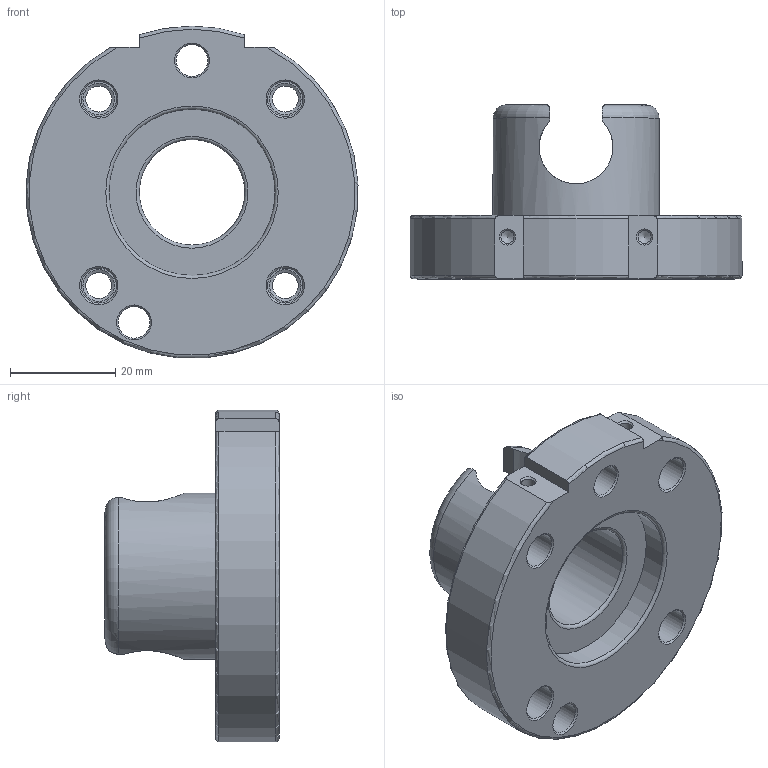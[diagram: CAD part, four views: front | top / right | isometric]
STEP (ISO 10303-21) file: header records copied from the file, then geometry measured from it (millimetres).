
FILE_DESCRIPTION(/* description */ (''),/* implementation_level */ '2;1');
FILE_NAME(/* name */ 'T:\Engineering\Homepage\Homepage 2020\4 3D Step-Daten - Homepage\4 SHW\G-SHW063-2UE-30MK1_.stp',/* time_stamp */ '2022-11-21T13:48:14+01:00',/* author */ ('ysplieth'),/* organization */ (''),/* preprocessor_version */ 'ST-DEVELOPER v17',/* originating_system */ 'Autodesk Inventor 2018',/* authorisation */ '');
FILE_SCHEMA (('AUTOMOTIVE_DESIGN { 1 0 10303 214 3 1 1 }'));
Length unit declared in the file: millimetre
Products named in the file (3): Baugruppe2; G-SHW063-2UE; DIN 934 - M6
Assembly tree (5 placements, depth 2):
  Baugruppe2
    G-SHW063-2UE
    DIN 934 - M6  x4
Bounding box: 62.94 x 33 x 62.89 mm (x, y, z)
Volume: 35935.2 mm3; surface area: 14605.4 mm2
Topology: 5 solids, 5 shells, 118 faces, 309 edges, 206 vertices
Faces by surface type: plane 53, cone 32, cylinder 23, torus 10
Full cylindrical faces by diameter (mm): 2.459 x2, 4.917 x4, 6 x2, 6.647 x4, 11 x4, 20 x1, 31.5 x2
Entity records: 2981 total; most frequent: CARTESIAN_POINT 759, DIRECTION 440, ORIENTED_EDGE 422, EDGE_CURVE 211, AXIS2_PLACEMENT_3D 182, VERTEX_POINT 143, EDGE_LOOP 102, CIRCLE 95
